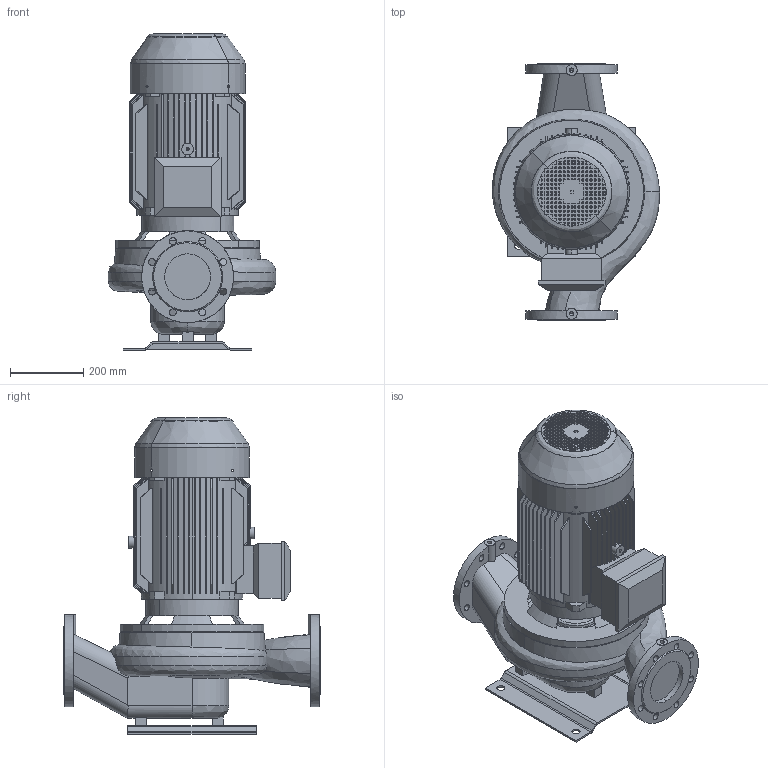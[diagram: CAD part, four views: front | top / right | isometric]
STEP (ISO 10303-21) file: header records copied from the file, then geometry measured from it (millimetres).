
FILE_DESCRIPTION (( 'STEP AP203' ), '1' );
FILE_NAME ('AL_1129_4_11kW_15kW_0.STEP', '2023-06-29T11:41:19', ( '' ), ( '' ), 'SwSTEP 2.0', 'SolidWorks 2016', '' );
FILE_SCHEMA (( 'CONFIG_CONTROL_DESIGN' ));
Length unit declared in the file: millimetre
Products named in the file (14): V_EKF31OKN164_1; R201257_1; V_TL110611291154_1; R200587_1; AL_1129_4_11kW_15kW_0; V_MKP166G2_1; V_PPAL1129_1; P100496
Assembly tree (7 placements, depth 3):
  R201257_1
  AL_1129_4_11kW_15kW_0
    V_EKF31OKN164_1
    V_TL110611291154_1
    V_PPAL1129_1
    V_MKP166G2_1
      R200587_1
      R201257_1
    P100496
  V_TL110611291154_1
  V_EKF31OKN164_1
  R200587_1
Bounding box: 456.07 x 700 x 862 mm (x, y, z)
Volume: 649184.1 mm3; surface area: 3479067.8 mm2
Topology: 3 solids, 8 shells, 1433 faces, 4248 edges, 2831 vertices
Faces by surface type: plane 1117, cylinder 150, cone 135, bspline 31
Entity records: 67480 total; most frequent: CARTESIAN_POINT 28198, ORIENTED_EDGE 8459, DIRECTION 6655, EDGE_CURVE 4238, LINE 3109, VECTOR 3109, VERTEX_POINT 2833, EDGE_LOOP 1931
